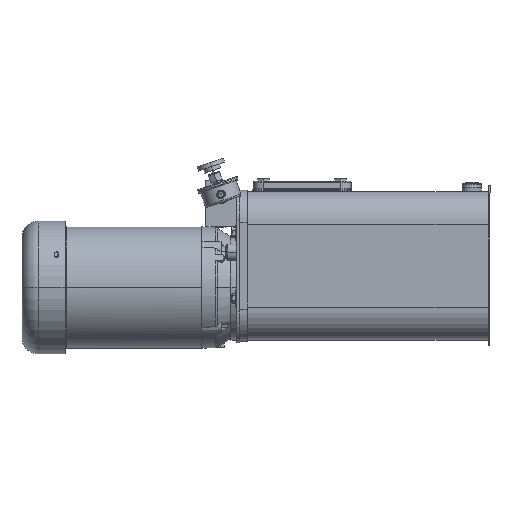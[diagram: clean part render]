
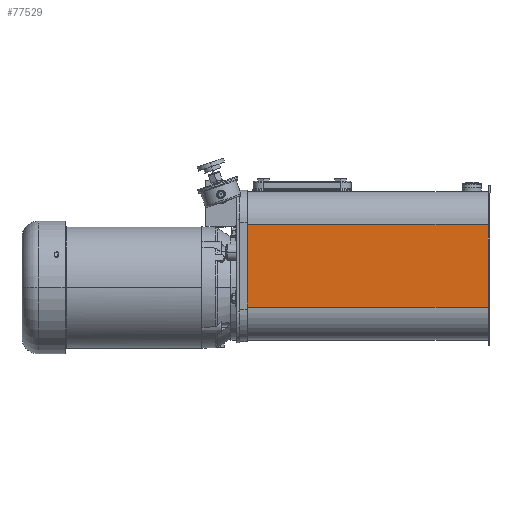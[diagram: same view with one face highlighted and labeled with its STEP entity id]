
A CAD part, top view. The second image highlights one B-rep face of the part: STEP entity #77529.
In plain terms, the highlighted planar face has unit normal (0, 0, 1).
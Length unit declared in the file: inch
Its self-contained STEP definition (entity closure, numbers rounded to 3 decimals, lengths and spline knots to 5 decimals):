
#940 = PLANE ( 'NONE',  #98950 ) ;
#1795 = ORIENTED_EDGE ( 'NONE', *, *, #71801, .F. ) ;
#4862 = EDGE_CURVE ( 'NONE', #69075, #76826, #98892, .T. ) ;
#15412 = VERTEX_POINT ( 'NONE', #25771 ) ;
#20482 = CARTESIAN_POINT ( 'NONE',  ( 4.60145, 5.67649, 15.4903 ) ) ;
#25771 = CARTESIAN_POINT ( 'NONE',  ( 4.60145, 5.67649, 15.4903 ) ) ;
#25807 = LINE ( 'NONE', #40783, #60422 ) ;
#35439 = DIRECTION ( 'NONE',  ( 1., 0., 0. ) ) ;
#40592 = DIRECTION ( 'NONE',  ( 0., -1., 0. ) ) ;
#40783 = CARTESIAN_POINT ( 'NONE',  ( 20.60145, 8.36939, 15.4903 ) ) ;
#45264 = VECTOR ( 'NONE', #35439, 39.37008 ) ;
#46229 = CARTESIAN_POINT ( 'NONE',  ( 4.60145, 13.18189, 15.4903 ) ) ;
#47315 = DIRECTION ( 'NONE',  ( 0., 0., -1. ) ) ;
#51359 = VECTOR ( 'NONE', #91202, 39.37008 ) ;
#53927 = DIRECTION ( 'NONE',  ( 0., 1., 0. ) ) ;
#55691 = VERTEX_POINT ( 'NONE', #81360 ) ;
#56544 = FACE_OUTER_BOUND ( 'NONE', #62745, .T. ) ;
#59836 = CARTESIAN_POINT ( 'NONE',  ( 4.60145, 11.06229, 15.4903 ) ) ;
#60422 = VECTOR ( 'NONE', #88601, 39.37008 ) ;
#61664 = LINE ( 'NONE', #46229, #92915 ) ;
#62745 = EDGE_LOOP ( 'NONE', ( #68859, #89192, #1795, #98008 ) ) ;
#63234 = CARTESIAN_POINT ( 'NONE',  ( 4.60145, 13.18189, 15.4903 ) ) ;
#66796 = EDGE_CURVE ( 'NONE', #15412, #55691, #89459, .T. ) ;
#68859 = ORIENTED_EDGE ( 'NONE', *, *, #74407, .F. ) ;
#69075 = VERTEX_POINT ( 'NONE', #86439 ) ;
#71801 = EDGE_CURVE ( 'NONE', #15412, #69075, #61664, .T. ) ;
#74407 = EDGE_CURVE ( 'NONE', #76826, #55691, #25807, .T. ) ;
#76826 = VERTEX_POINT ( 'NONE', #86988 ) ;
#77529 = ADVANCED_FACE ( 'NONE', ( #56544 ), #940, .F. ) ;
#81360 = CARTESIAN_POINT ( 'NONE',  ( 20.60145, 5.67649, 15.4903 ) ) ;
#86439 = CARTESIAN_POINT ( 'NONE',  ( 4.60145, 11.06229, 15.4903 ) ) ;
#86988 = CARTESIAN_POINT ( 'NONE',  ( 20.60145, 11.06229, 15.4903 ) ) ;
#88601 = DIRECTION ( 'NONE',  ( 0., -1., 0. ) ) ;
#89192 = ORIENTED_EDGE ( 'NONE', *, *, #4862, .F. ) ;
#89459 = LINE ( 'NONE', #20482, #45264 ) ;
#91202 = DIRECTION ( 'NONE',  ( 1., 0., 0. ) ) ;
#92915 = VECTOR ( 'NONE', #53927, 39.37008 ) ;
#98008 = ORIENTED_EDGE ( 'NONE', *, *, #66796, .T. ) ;
#98892 = LINE ( 'NONE', #59836, #51359 ) ;
#98950 = AXIS2_PLACEMENT_3D ( 'NONE', #63234, #47315, #40592 ) ;
